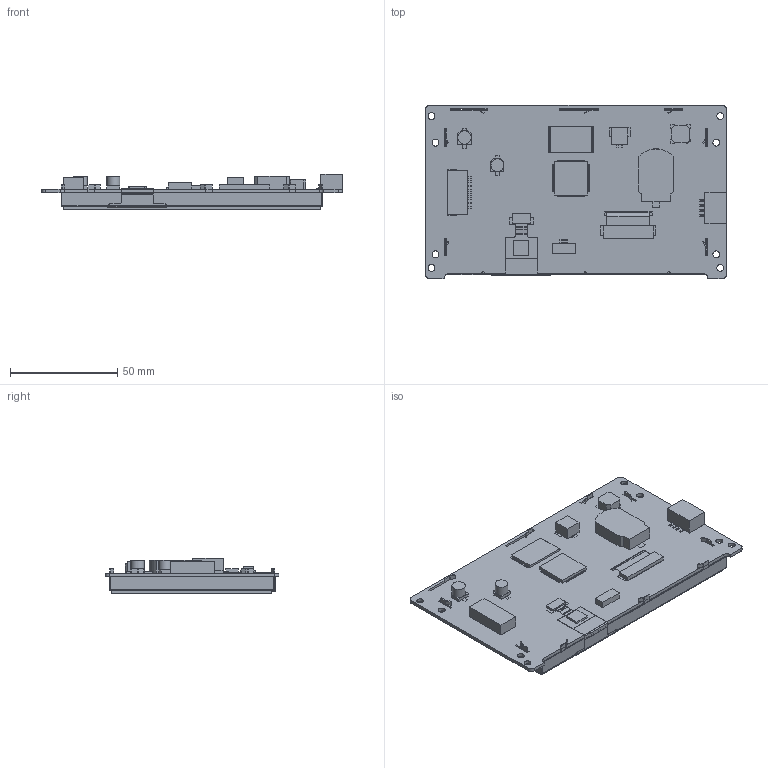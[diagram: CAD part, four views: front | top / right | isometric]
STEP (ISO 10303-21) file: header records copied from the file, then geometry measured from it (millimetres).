
FILE_DESCRIPTION(/* description */ (''),/* implementation_level */ '2;1');
FILE_NAME(/* name */ '3D_SDWa050T67AC.stp',/* time_stamp */ '2020-09-11T11:02:56+08:00',/* author */ (''),/* organization */ (''),/* preprocessor_version */ 'ST-DEVELOPER v15',/* originating_system */ 'SIEMENS PLM Software NX 8.5',/* authorisation */ '');
FILE_SCHEMA (('AP203_CONFIGURATION_CONTROLLED_3D_DESIGN_OF_MECHANICAL_PARTS_AND_ASSEMBLIES_MIM_LF { 1 0 10303 403 2 1 2}'));
Products named in the file (1): SDWa050T67A
Bounding box: 140 x 80.9 x 16.61 mm (x, y, z)
Volume: 94905.9 mm3; surface area: 98678.8 mm2
Topology: 330 solids, 330 shells, 2128 faces, 4401 edges, 2934 vertices
Faces by surface type: plane 2058, cylinder 63, extrusion 7
Full cylindrical faces by diameter (mm): 3.2 x8, 5.931 x1, 6.258 x1
Entity records: 70309 total; most frequent: CARTESIAN_POINT 9808, ORIENTED_EDGE 8778, DIRECTION 8705, EDGE_CURVE 4389, VECTOR 4213, LINE 4206, VERTEX_POINT 2934, AXIS2_PLACEMENT_3D 2246
